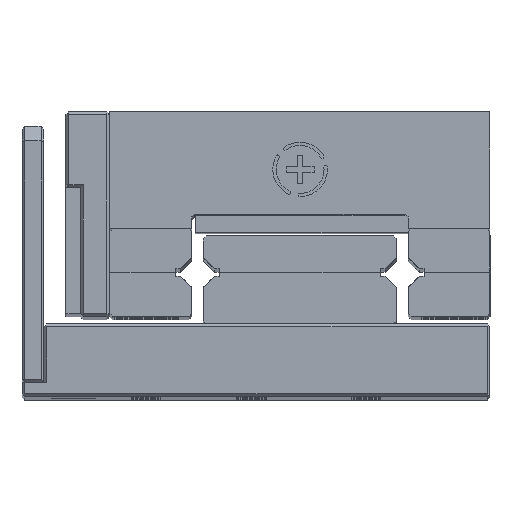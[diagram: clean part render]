
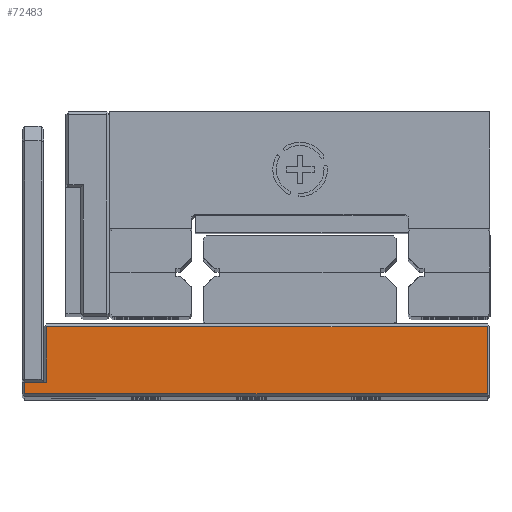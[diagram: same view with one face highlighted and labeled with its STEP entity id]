
A CAD part, top view. The second image highlights one B-rep face of the part: STEP entity #72483.
In plain terms, the highlighted planar face has unit normal (0, 0, 1).
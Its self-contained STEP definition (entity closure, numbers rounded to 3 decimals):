
#2040 = VECTOR ( 'NONE', #57547, 1000. ) ;
#3717 = EDGE_CURVE ( 'NONE', #24846, #18747, #70047, .T. ) ;
#4520 = EDGE_LOOP ( 'NONE', ( #6913, #8449, #37427, #71925, #22846, #48268 ) ) ;
#4563 = LINE ( 'NONE', #27418, #9697 ) ;
#5130 = VECTOR ( 'NONE', #61028, 1000. ) ;
#6913 = ORIENTED_EDGE ( 'NONE', *, *, #13194, .T. ) ;
#7235 = CARTESIAN_POINT ( 'NONE',  ( -24.3, -3., 135. ) ) ;
#8449 = ORIENTED_EDGE ( 'NONE', *, *, #3717, .T. ) ;
#9697 = VECTOR ( 'NONE', #10545, 1000. ) ;
#10545 = DIRECTION ( 'NONE',  ( 0., -1., 0. ) ) ;
#13194 = EDGE_CURVE ( 'NONE', #23566, #24846, #58945, .T. ) ;
#13356 = CARTESIAN_POINT ( 'NONE',  ( -26., -7., 135. ) ) ;
#13876 = DIRECTION ( 'NONE',  ( 1., 0., 0. ) ) ;
#14827 = DIRECTION ( 'NONE',  ( 1., 0., 0. ) ) ;
#16286 = VECTOR ( 'NONE', #13876, 1000. ) ;
#17070 = VERTEX_POINT ( 'NONE', #56351 ) ;
#17084 = EDGE_CURVE ( 'NONE', #66177, #23566, #4563, .T. ) ;
#18019 = VECTOR ( 'NONE', #14827, 1000. ) ;
#18241 = CARTESIAN_POINT ( 'NONE',  ( -24.3, -7., 135. ) ) ;
#18613 = CARTESIAN_POINT ( 'NONE',  ( 5.8, -3.2, 135. ) ) ;
#18747 = VERTEX_POINT ( 'NONE', #25750 ) ;
#22846 = ORIENTED_EDGE ( 'NONE', *, *, #27904, .F. ) ;
#23566 = VERTEX_POINT ( 'NONE', #45891 ) ;
#24846 = VERTEX_POINT ( 'NONE', #61603 ) ;
#25750 = CARTESIAN_POINT ( 'NONE',  ( 5.8, -3.2, 135. ) ) ;
#27418 = CARTESIAN_POINT ( 'NONE',  ( -25.8, -3., 135. ) ) ;
#27904 = EDGE_CURVE ( 'NONE', #66177, #64224, #59513, .T. ) ;
#28423 = CARTESIAN_POINT ( 'NONE',  ( -7., -3., 135. ) ) ;
#31378 = EDGE_CURVE ( 'NONE', #17070, #64224, #58653, .T. ) ;
#33696 = DIRECTION ( 'NONE',  ( -1., 0., 0. ) ) ;
#35206 = VECTOR ( 'NONE', #33696, 1000. ) ;
#37427 = ORIENTED_EDGE ( 'NONE', *, *, #54571, .T. ) ;
#38962 = LINE ( 'NONE', #50242, #35206 ) ;
#39686 = PLANE ( 'NONE',  #51188 ) ;
#40054 = DIRECTION ( 'NONE',  ( 0., 0., 1. ) ) ;
#40673 = CARTESIAN_POINT ( 'NONE',  ( -25.8, -7., 135. ) ) ;
#45891 = CARTESIAN_POINT ( 'NONE',  ( -25.8, -7.8, 135. ) ) ;
#48268 = ORIENTED_EDGE ( 'NONE', *, *, #17084, .T. ) ;
#50242 = CARTESIAN_POINT ( 'NONE',  ( -24.5, -3.2, 135. ) ) ;
#51188 = AXIS2_PLACEMENT_3D ( 'NONE', #28423, #40054, #63699 ) ;
#52457 = FACE_OUTER_BOUND ( 'NONE', #4520, .T. ) ;
#54571 = EDGE_CURVE ( 'NONE', #18747, #17070, #38962, .T. ) ;
#56351 = CARTESIAN_POINT ( 'NONE',  ( -24.3, -3.2, 135. ) ) ;
#57547 = DIRECTION ( 'NONE',  ( 0., -1., 0. ) ) ;
#58653 = LINE ( 'NONE', #7235, #2040 ) ;
#58945 = LINE ( 'NONE', #59693, #16286 ) ;
#59513 = LINE ( 'NONE', #13356, #18019 ) ;
#59693 = CARTESIAN_POINT ( 'NONE',  ( -7., -7.8, 135. ) ) ;
#61028 = DIRECTION ( 'NONE',  ( 0., 1., 0. ) ) ;
#61603 = CARTESIAN_POINT ( 'NONE',  ( 5.8, -7.8, 135. ) ) ;
#63699 = DIRECTION ( 'NONE',  ( -1., 0., 0. ) ) ;
#64224 = VERTEX_POINT ( 'NONE', #18241 ) ;
#66177 = VERTEX_POINT ( 'NONE', #40673 ) ;
#70047 = LINE ( 'NONE', #18613, #5130 ) ;
#71925 = ORIENTED_EDGE ( 'NONE', *, *, #31378, .T. ) ;
#72483 = ADVANCED_FACE ( 'NONE', ( #52457 ), #39686, .T. ) ;
